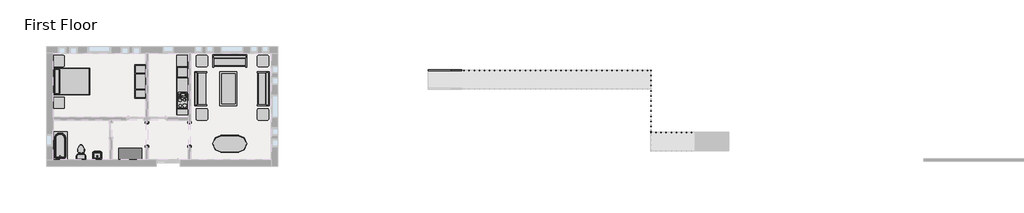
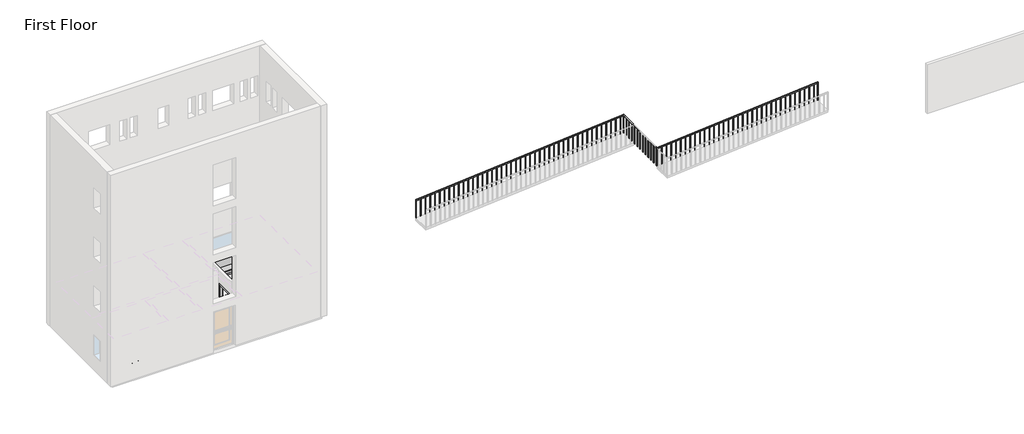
# One storey, part 3 of 3: 15 furniture elements, 6 proxies, 4 flow terminals, 1 railing.
"""IFC4 building model written with IfcOpenShell, lengths in millimetres."""

from ifc_helpers import new_model, si_unit, frame, origin, place, context, project, spatial, polyline, outline, extrude, faceted_brep, transform, mapped, element, save
from components import m_cook_top_4_unit2_0615_x_500mm_249f3515, m_dishwasher_610_x_610_x_875mm_54ecfc4c, m_kitchenette_medium_m_kitchenette_medium_3ff942c7, m_passage_opening_cased_1220_x_2134_mm_87a8d9c2, m_refrigerator_600_x_660mm_a466bf94, m_sink_kitchen_island_450_x_450mm_f969cf2d, m_sink_vanity_square_500_x_440mm_1e229b74, m_toilet_domestic_3d_m_toilet_domestic_3d_5cb52bd4, m_toilet_domestic_3d_m_toilet_domestic_3d_183bbd19, m_tub_rectangular_3d_m_tub_rectangular_3d_3a981ad5, m_bed_shaker_1422_x_1981mm_double_096e7f55, m_counter_top_w_sink_hole_600mm_depth_8ccae52a, m_dresser_1220_x_1525_x_0610mm_18e1f140, m_entertainment_center_1830_x_1830_x_0610mm_f77a9b93, m_sofa_1830mm_f9e8a66b, m_table_coffee_0915_x_1830_x_0457mm_134cd960, m_table_dining_oval_0915_x_1830mm_a7cfbe21, m_table_end_0610_x_0160mm_cb6ea12e

model = new_model("IFC4")

# Units and contexts
model_context = context("Model", 3, world=origin())
ifc_project = project(units=[si_unit("LENGTHUNIT", "METRE", prefix="MILLI")], contexts=[model_context])

# Site, building, storey
site = spatial("IfcSite", under=ifc_project)
building = spatial("IfcBuilding", under=site)
storey = spatial("IfcBuildingStorey", under=building, Name="First Floor", Elevation=0.0)

# Proxies
placement = place(None, origin())
m_cook_top_4_unit2_0615_x_500mm_shape = m_cook_top_4_unit2_0615_x_500mm_249f3515(model_context)
element("IfcBuildingElementProxy", 1, Name="M_Cook Top-4 Unit2 : 0615 x 500mm", ObjectType="M_Cook Top-4 Unit2 : 0615 x 500mm", at=placement, inside=storey, context=model_context, shape_type="MappedRepresentation", body=[
    mapped(m_cook_top_4_unit2_0615_x_500mm_shape, transform((-11224.1822145, 11168.140104, 31.0), x_axis=(0.0, 1.0, 0.0), y_axis=(-1.0, 0.0, 0.0), z_axis=(0.0, 0.0, 1.0))),
])
m_dishwasher_610_x_610_x_875mm_shape = m_dishwasher_610_x_610_x_875mm_54ecfc4c(model_context)
element("IfcBuildingElementProxy", 2, Name="M_Dishwasher : 610 x 610 x 875mm", ObjectType="M_Dishwasher : 610 x 610 x 875mm", at=placement, inside=storey, context=model_context, shape_type="MappedRepresentation", body=[
    mapped(m_dishwasher_610_x_610_x_875mm_shape, transform((-10967.5326497, 13033.8726355, 0.0), x_axis=(0.0, 1.0, 0.0), y_axis=(-1.0, 0.0, 0.0), z_axis=(0.0, 0.0, 1.0))),
])
m_kitchenette_medium_m_kitchenette_medium_shape = m_kitchenette_medium_m_kitchenette_medium_3ff942c7(model_context)
element("IfcBuildingElementProxy", 3, Name="M_Kitchenette - Medium : M_Kitchenette - Medium", ObjectType="M_Kitchenette - Medium : M_Kitchenette - Medium", at=placement, inside=storey, context=model_context, shape_type="MappedRepresentation", body=[
    mapped(m_kitchenette_medium_m_kitchenette_medium_shape, transform((-11539.1822145, 11797.152399, 0.0), x_axis=(0.0, 1.0, 0.0), y_axis=(-1.0, 0.0, 0.0), z_axis=(0.0, 0.0, 1.0))),
])
m_passage_opening_cased_1220_x_2134_mm_shape = m_passage_opening_cased_1220_x_2134_mm_87a8d9c2(model_context)
element("IfcBuildingElementProxy", 4, Name="M_Passage Opening-Cased : 1220 x 2134 mm", ObjectType="M_Passage Opening-Cased : 1220 x 2134 mm", at=placement, inside=storey, context=model_context, shape_type="MappedRepresentation", body=[
    mapped(m_passage_opening_cased_1220_x_2134_mm_shape, transform((-10841.0930086, 9462.255705, 0.0), x_axis=(0.0, 1.0, 0.0), y_axis=(-1.0, 0.0, 0.0), z_axis=(0.0, 0.0, 1.0))),
])
element("IfcBuildingElementProxy", 5, Name="M_Passage Opening-Cased : 1220 x 2134 mm", ObjectType="M_Passage Opening-Cased : 1220 x 2134 mm", at=placement, inside=storey, context=model_context, shape_type="MappedRepresentation", body=[
    mapped(m_passage_opening_cased_1220_x_2134_mm_shape, transform((-13127.0930086, 9445.8783915, 0.0), x_axis=(0.0, -1.0, 0.0), y_axis=(1.0, 0.0, 0.0), z_axis=(0.0, 0.0, 1.0))),
])
m_refrigerator_600_x_660mm_shape = m_refrigerator_600_x_660mm_a466bf94(model_context)
element("IfcBuildingElementProxy", 6, Name="M_Refrigerator : 600 x 660mm", ObjectType="M_Refrigerator : 600 x 660mm", at=placement, inside=storey, context=model_context, shape_type="MappedRepresentation", body=[
    mapped(m_refrigerator_600_x_660mm_shape, transform((-11242.9671243, 12874.1912466, 0.0), x_axis=(0.0, 1.0, 0.0), y_axis=(-1.0, 0.0, 0.0), z_axis=(0.0, 0.0, 1.0))),
])

# Flow terminals
m_sink_kitchen_island_450_x_450mm_shape = m_sink_kitchen_island_450_x_450mm_f969cf2d(model_context)
element("IfcFlowTerminal", 7, ObjectType="M_Sink Kitchen-Island : 450 x 450mm", at=placement, inside=storey, context=model_context, shape_type="MappedRepresentation", body=[
    mapped(m_sink_kitchen_island_450_x_450mm_shape, transform((-11223.7368134, 11504.7008634, 31.0), x_axis=(0.0, 1.0, 0.0), y_axis=(-1.0, 0.0, 0.0), z_axis=(0.0, 0.0, 1.0))),
])
m_sink_vanity_square_500_x_440mm_shape = m_sink_vanity_square_500_x_440mm_1e229b74(model_context)
element("IfcFlowTerminal", 8, ObjectType="M_Sink Vanity-Square : 500 x 440mm", at=placement, inside=storey, context=model_context, shape_type="MappedRepresentation", body=[
    mapped(m_sink_vanity_square_500_x_440mm_shape, transform((-15802.3094072, 8285.2124494, 0.0), x_axis=(-1.0, 0.0, 0.0), y_axis=(0.0, -1.0, 0.0), z_axis=(0.0, 0.0, 1.0))),
])
m_toilet_domestic_3d_m_toilet_domestic_3d_shape = m_toilet_domestic_3d_m_toilet_domestic_3d_5cb52bd4(model_context)
m_toilet_domestic_3d_m_toilet_domestic_3d_2_shape = m_toilet_domestic_3d_m_toilet_domestic_3d_183bbd19(model_context)
element("IfcFlowTerminal", 9, ObjectType="M_Toilet-Domestic-3D : M_Toilet-Domestic-3D", at=placement, inside=storey, context=model_context, shape_type="MappedRepresentation", body=[
    mapped(m_toilet_domestic_3d_m_toilet_domestic_3d_shape, transform((-16689.489036, 8599.7630756, 0.0), x_axis=(-1.0, 0.0, 0.0), y_axis=(0.0, -1.0, 0.0), z_axis=(0.0, 0.0, 1.0))),
    mapped(m_toilet_domestic_3d_m_toilet_domestic_3d_2_shape, transform((-16689.489036, 8599.7630756, 0.0), x_axis=(-1.0, 0.0, 0.0), y_axis=(0.0, -1.0, 0.0), z_axis=(0.0, 0.0, 1.0))),
])
m_tub_rectangular_3d_m_tub_rectangular_3d_shape = m_tub_rectangular_3d_m_tub_rectangular_3d_3a981ad5(model_context)
element("IfcFlowTerminal", 10, ObjectType="M_Tub-Rectangular-3D : M_Tub-Rectangular-3D", at=placement, inside=storey, context=model_context, shape_type="MappedRepresentation", body=[
    mapped(m_tub_rectangular_3d_m_tub_rectangular_3d_shape, transform((-18376.8430086, 9198.170017, 0.0), x_axis=(0.0, 1.0, 0.0), y_axis=(-1.0, 0.0, 0.0), z_axis=(0.0, 0.0, 1.0))),
])

# Furniture
m_bed_shaker_1422_x_1981mm_double_shape = m_bed_shaker_1422_x_1981mm_double_096e7f55(model_context)
element("IfcFurniture", 11, ObjectType="M_Bed-Shaker : 1422 x 1981mm - Double", at=placement, inside=storey, context=model_context, shape_type="MappedRepresentation", body=[
    mapped(m_bed_shaker_1422_x_1981mm_double_shape, transform((-18201.8430086, 12334.7295483, 0.0), x_axis=(0.0, 1.0, 0.0), y_axis=(-1.0, 0.0, 0.0), z_axis=(0.0, 0.0, 1.0))),
])
m_counter_top_w_sink_hole_600mm_depth_shape = m_counter_top_w_sink_hole_600mm_depth_8ccae52a(model_context)
element("IfcFurniture", 12, ObjectType="M_Counter Top w Sink Hole : 600mm Depth", at=placement, inside=storey, context=model_context, shape_type="MappedRepresentation", body=[
    mapped(m_counter_top_w_sink_hole_600mm_depth_shape, transform((-11539.1822145, 11720.852399, 31.0), x_axis=(0.0, 1.0, 0.0), y_axis=(-1.0, 0.0, 0.0), z_axis=(0.0, 0.0, 1.0))),
])
m_dresser_1220_x_1525_x_0610mm_shape = m_dresser_1220_x_1525_x_0610mm_18e1f140(model_context)
element("IfcFurniture", 13, ObjectType="M_Dresser : 1220 x 1525 x 0610mm", at=placement, inside=storey, context=model_context, shape_type="MappedRepresentation", body=[
    mapped(m_dresser_1220_x_1525_x_0610mm_shape, transform((-13767.8997488, 8773.2300024, 0.0), x_axis=(1.0, 0.0, 0.0), y_axis=(0.0, 1.0, 0.0), z_axis=(0.0, 0.0, 1.0))),
])
m_entertainment_center_1830_x_1830_x_0610mm_shape = m_entertainment_center_1830_x_1830_x_0610mm_f77a9b93(model_context)
element("IfcFurniture", 14, ObjectType="M_Entertainment center : 1830 x 1830 x 0610mm", at=placement, inside=storey, context=model_context, shape_type="MappedRepresentation", body=[
    mapped(m_entertainment_center_1830_x_1830_x_0610mm_shape, transform((-13906.2430086, 12315.6795483, 0.0), x_axis=(0.0, 1.0, 0.0), y_axis=(-1.0, 0.0, 0.0), z_axis=(0.0, 0.0, 1.0))),
])
m_sofa_1830mm_shape = m_sofa_1830mm_f9e8a66b(model_context)
element("IfcFurniture", 15, ObjectType="M_Sofa : 1830mm", at=placement, inside=storey, context=model_context, shape_type="MappedRepresentation", body=[
    mapped(m_sofa_1830mm_shape, transform((-8739.4635004, 13279.9129499, 0.0), x_axis=(1.0, 0.0, 0.0), y_axis=(0.0, 1.0, 0.0), z_axis=(0.0, 0.0, 1.0))),
])
element("IfcFurniture", 16, ObjectType="M_Sofa : 1830mm", at=placement, inside=storey, context=model_context, shape_type="MappedRepresentation", body=[
    mapped(m_sofa_1830mm_shape, transform((-7015.247107, 11996.4375401, 0.0), x_axis=(0.0, -1.0, 0.0), y_axis=(1.0, 0.0, 0.0), z_axis=(0.0, 0.0, 1.0))),
])
element("IfcFurniture", 17, ObjectType="M_Sofa : 1830mm", at=placement, inside=storey, context=model_context, shape_type="MappedRepresentation", body=[
    mapped(m_sofa_1830mm_shape, transform((-10094.9389103, 11855.6965565, 0.0), x_axis=(0.0, 1.0, 0.0), y_axis=(-1.0, 0.0, 0.0), z_axis=(0.0, 0.0, 1.0))),
])
m_table_coffee_0915_x_1830_x_0457mm_shape = m_table_coffee_0915_x_1830_x_0457mm_134cd960(model_context)
element("IfcFurniture", 18, ObjectType="M_Table-Coffee : 0915 x 1830 x 0457mm", at=placement, inside=storey, context=model_context, shape_type="MappedRepresentation", body=[
    mapped(m_table_coffee_0915_x_1830_x_0457mm_shape, transform((-8645.8819308, 11907.8012816, 0.0), x_axis=(0.0, 1.0, 0.0), y_axis=(-1.0, 0.0, 0.0), z_axis=(0.0, 0.0, 1.0))),
])
m_table_dining_oval_0915_x_1830mm_shape = m_table_dining_oval_0915_x_1830mm_a7cfbe21(model_context)
element("IfcFurniture", 19, ObjectType="M_Table-Dining Oval : 0915 x 1830mm", at=placement, inside=storey, context=model_context, shape_type="MappedRepresentation", body=[
    mapped(m_table_dining_oval_0915_x_1830mm_shape, transform((-8267.2733365, 9307.4154089, 0.0), x_axis=(1.0, 0.0, 0.0), y_axis=(0.0, 1.0, 0.0), z_axis=(0.0, 0.0, 1.0))),
])
m_table_end_0610_x_0160mm_shape = m_table_end_0610_x_0160mm_cb6ea12e(model_context)
element("IfcFurniture", 20, ObjectType="M_Table-End : 0610 x 0160mm", at=placement, inside=storey, context=model_context, shape_type="MappedRepresentation", body=[
    mapped(m_table_end_0610_x_0160mm_shape, transform((-10482.8266389, 13273.6670483, 0.0), x_axis=(1.0, 0.0, 0.0), y_axis=(0.0, 1.0, 0.0), z_axis=(0.0, 0.0, 1.0))),
])
element("IfcFurniture", 21, ObjectType="M_Table-End : 0610 x 0160mm", at=placement, inside=storey, context=model_context, shape_type="MappedRepresentation", body=[
    mapped(m_table_end_0610_x_0160mm_shape, transform((-7182.8266389, 13273.6670483, 0.0), x_axis=(1.0, 0.0, 0.0), y_axis=(0.0, 1.0, 0.0), z_axis=(0.0, 0.0, 1.0))),
])
element("IfcFurniture", 22, ObjectType="M_Table-End : 0610 x 0160mm", at=placement, inside=storey, context=model_context, shape_type="MappedRepresentation", body=[
    mapped(m_table_end_0610_x_0160mm_shape, transform((-7182.8266389, 10391.6670483, 0.0), x_axis=(1.0, 0.0, 0.0), y_axis=(0.0, 1.0, 0.0), z_axis=(0.0, 0.0, 1.0))),
])
element("IfcFurniture", 23, ObjectType="M_Table-End : 0610 x 0160mm", at=placement, inside=storey, context=model_context, shape_type="MappedRepresentation", body=[
    mapped(m_table_end_0610_x_0160mm_shape, transform((-10482.8266389, 10391.6670483, 0.0), x_axis=(1.0, 0.0, 0.0), y_axis=(0.0, 1.0, 0.0), z_axis=(0.0, 0.0, 1.0))),
])
element("IfcFurniture", 24, ObjectType="M_Table-End : 0610 x 0160mm", at=placement, inside=storey, context=model_context, shape_type="MappedRepresentation", body=[
    mapped(m_table_end_0610_x_0160mm_shape, transform((-18205.5766389, 13273.6670483, 0.0), x_axis=(1.0, 0.0, 0.0), y_axis=(0.0, 1.0, 0.0), z_axis=(0.0, 0.0, 1.0))),
])
element("IfcFurniture", 25, ObjectType="M_Table-End : 0610 x 0160mm", at=placement, inside=storey, context=model_context, shape_type="MappedRepresentation", body=[
    mapped(m_table_end_0610_x_0160mm_shape, transform((-18205.5766389, 11018.6670483, 0.0), x_axis=(1.0, 0.0, 0.0), y_axis=(0.0, 1.0, 0.0), z_axis=(0.0, 0.0, 1.0))),
])

# Railing
element("IfcRailing", 26, ObjectType="1100mm", at=placement, inside=storey, context=model_context, shape_type="SolidModel", body=[
    faceted_brep([(2045.9938283, 12939.6420399, 1100.0), (2045.9938283, 12939.6420399, 1049.8266893), (2045.9938283, 12889.6420399, 1049.8266893), (2045.9938283, 12889.6420399, 1100.0), (13945.9938283, 12939.6420399, 2091.6666667), (13995.9938283, 12939.6420399, 2045.6600226), (13995.9938283, 12889.6420399, 2045.6600226), (13945.9938283, 12889.6420399, 2091.6666667), (13945.9938283, 12939.6420399, 2100.0), (13995.9938283, 12939.6420399, 2050.0), (13995.9938283, 12889.6420399, 2050.0), (13945.9938283, 12889.6420399, 2100.0), (14070.9938283, 12939.6420399, 2100.0), (14070.9938283, 12939.6420399, 2050.0), (14020.9938283, 12889.6420399, 2050.0), (14020.9938283, 12889.6420399, 2100.0), (14070.9938283, 12814.6420399, 2100.0), (14070.9938283, 12814.6420399, 2050.0), (14020.9938283, 12814.6420399, 2050.0), (14020.9938283, 12814.6420399, 2100.0), (14070.9938283, 9671.2961921, 2100.0), (14070.9938283, 9621.2961921, 2050.0), (14020.9938283, 9621.2961921, 2050.0), (14020.9938283, 9671.2961921, 2100.0), (14070.9938283, 9671.2961921, 2108.3333333), (14070.9938283, 9621.2961921, 2058.3333333), (14020.9938283, 9621.2961921, 2058.3333333), (14020.9938283, 9671.2961921, 2108.3333333), (14070.9938283, 9596.2961921, 2108.3333333), (14070.9938283, 9596.2961921, 2058.3333333), (14020.9938283, 9546.2961921, 2058.3333333), (14020.9938283, 9546.2961921, 2108.3333333), (14145.9938283, 9596.2961921, 2108.3333333), (14148.0735572, 9596.2961921, 2058.3333333), (14148.0735572, 9546.2961921, 2058.3333333), (14145.9938283, 9546.2961921, 2108.3333333), (23345.9938283, 9596.2961921, 2875.0), (23345.9938283, 9546.2961921, 2875.0), (23345.9938283, 9546.2961921, 2824.8266893), (23345.9938283, 9596.2961921, 2824.8266893)], [[[0, 1, 2, 3]], [[1, 0, 4, 5]], [[2, 1, 5, 6]], [[3, 2, 6, 7]], [[0, 3, 7, 4]], [[5, 4, 8, 9]], [[6, 5, 9, 10]], [[7, 6, 10, 11]], [[4, 7, 11, 8]], [[9, 8, 12, 13]], [[10, 9, 13, 14]], [[11, 10, 14, 15]], [[8, 11, 15, 12]], [[13, 12, 16, 17]], [[14, 13, 17, 18]], [[15, 14, 18, 19]], [[12, 15, 19, 16]], [[17, 16, 20, 21]], [[18, 17, 21, 22]], [[19, 18, 22, 23]], [[16, 19, 23, 20]], [[21, 20, 24, 25]], [[22, 21, 25, 26]], [[23, 22, 26, 27]], [[20, 23, 27, 24]], [[25, 24, 28, 29]], [[26, 25, 29, 30]], [[27, 26, 30, 31]], [[24, 27, 31, 28]], [[29, 28, 32, 33]], [[30, 29, 33, 34]], [[31, 30, 34, 35]], [[28, 31, 35, 32]], [[36, 37, 38, 39]], [[33, 32, 36, 39]], [[34, 33, 39, 38]], [[35, 34, 38, 37]], [[32, 35, 37, 36]]]),
    extrude(outline(polyline([(2805.0350226, 23108.4938283), (1755.2083333, 23108.4938283), (1757.2916667, 23133.4938283), (2807.1183559, 23133.4938283), (2805.0350226, 23108.4938283)])), frame((0.0, 9558.7961921, 0.0), z_axis=(0.0, 1.0, 0.0), x_axis=(0.0, 0.0, 1.0)), (0.0, 0.0, 1.0), 25.0),
    extrude(outline(polyline([(2782.1183559, 22833.4938283), (1732.2916667, 22833.4938283), (1734.375, 22858.4938283), (2784.2016893, 22858.4938283), (2782.1183559, 22833.4938283)])), frame((0.0, 9558.7961921, 0.0), z_axis=(0.0, 1.0, 0.0), x_axis=(0.0, 0.0, 1.0)), (0.0, 0.0, 1.0), 25.0),
    extrude(outline(polyline([(2759.2016893, 22558.4938283), (1709.375, 22558.4938283), (1711.4583333, 22583.4938283), (2761.2850226, 22583.4938283), (2759.2016893, 22558.4938283)])), frame((0.0, 9558.7961921, 0.0), z_axis=(0.0, 1.0, 0.0), x_axis=(0.0, 0.0, 1.0)), (0.0, 0.0, 1.0), 25.0),
    extrude(outline(polyline([(2736.2850226, 22283.4938283), (1686.4583333, 22283.4938283), (1688.5416667, 22308.4938283), (2738.3683559, 22308.4938283), (2736.2850226, 22283.4938283)])), frame((0.0, 9558.7961921, 0.0), z_axis=(0.0, 1.0, 0.0), x_axis=(0.0, 0.0, 1.0)), (0.0, 0.0, 1.0), 25.0),
    extrude(outline(polyline([(2713.3683559, 22008.4938283), (1663.5416667, 22008.4938283), (1665.625, 22033.4938283), (2715.4516893, 22033.4938283), (2713.3683559, 22008.4938283)])), frame((0.0, 9558.7961921, 0.0), z_axis=(0.0, 1.0, 0.0), x_axis=(0.0, 0.0, 1.0)), (0.0, 0.0, 1.0), 25.0),
    extrude(outline(polyline([(2690.4516893, 21733.4938283), (1640.625, 21733.4938283), (1642.7083333, 21758.4938283), (2692.5350226, 21758.4938283), (2690.4516893, 21733.4938283)])), frame((0.0, 9558.7961921, 0.0), z_axis=(0.0, 1.0, 0.0), x_axis=(0.0, 0.0, 1.0)), (0.0, 0.0, 1.0), 25.0),
    extrude(outline(polyline([(2667.5350226, 21458.4938283), (1617.7083333, 21458.4938283), (1619.7916667, 21483.4938283), (2669.6183559, 21483.4938283), (2667.5350226, 21458.4938283)])), frame((0.0, 9558.7961921, 0.0), z_axis=(0.0, 1.0, 0.0), x_axis=(0.0, 0.0, 1.0)), (0.0, 0.0, 1.0), 25.0),
    extrude(outline(polyline([(2644.6183559, 21183.4938283), (1594.7916667, 21183.4938283), (1596.875, 21208.4938283), (2646.7016893, 21208.4938283), (2644.6183559, 21183.4938283)])), frame((0.0, 9558.7961921, 0.0), z_axis=(0.0, 1.0, 0.0), x_axis=(0.0, 0.0, 1.0)), (0.0, 0.0, 1.0), 25.0),
    extrude(outline(polyline([(2621.7016893, 20908.4938283), (1571.875, 20908.4938283), (1573.9583333, 20933.4938283), (2623.7850226, 20933.4938283), (2621.7016893, 20908.4938283)])), frame((0.0, 9558.7961921, 0.0), z_axis=(0.0, 1.0, 0.0), x_axis=(0.0, 0.0, 1.0)), (0.0, 0.0, 1.0), 25.0),
    extrude(outline(polyline([(2598.7850226, 20633.4938283), (1548.9583333, 20633.4938283), (1551.0416667, 20658.4938283), (2600.8683559, 20658.4938283), (2598.7850226, 20633.4938283)])), frame((0.0, 9558.7961921, 0.0), z_axis=(0.0, 1.0, 0.0), x_axis=(0.0, 0.0, 1.0)), (0.0, 0.0, 1.0), 25.0),
    extrude(outline(polyline([(2575.8683559, 20358.4938283), (1526.0416667, 20358.4938283), (1528.125, 20383.4938283), (2577.9516893, 20383.4938283), (2575.8683559, 20358.4938283)])), frame((0.0, 9558.7961921, 0.0), z_axis=(0.0, 1.0, 0.0), x_axis=(0.0, 0.0, 1.0)), (0.0, 0.0, 1.0), 25.0),
    extrude(outline(polyline([(2552.9516893, 20083.4938283), (1503.125, 20083.4938283), (1505.2083333, 20108.4938283), (2555.0350226, 20108.4938283), (2552.9516893, 20083.4938283)])), frame((0.0, 9558.7961921, 0.0), z_axis=(0.0, 1.0, 0.0), x_axis=(0.0, 0.0, 1.0)), (0.0, 0.0, 1.0), 25.0),
    extrude(outline(polyline([(2530.0350226, 19808.4938283), (1480.2083333, 19808.4938283), (1482.2916667, 19833.4938283), (2532.1183559, 19833.4938283), (2530.0350226, 19808.4938283)])), frame((0.0, 9558.7961921, 0.0), z_axis=(0.0, 1.0, 0.0), x_axis=(0.0, 0.0, 1.0)), (0.0, 0.0, 1.0), 25.0),
    extrude(outline(polyline([(2507.1183559, 19533.4938283), (1457.2916667, 19533.4938283), (1459.375, 19558.4938283), (2509.2016893, 19558.4938283), (2507.1183559, 19533.4938283)])), frame((0.0, 9558.7961921, 0.0), z_axis=(0.0, 1.0, 0.0), x_axis=(0.0, 0.0, 1.0)), (0.0, 0.0, 1.0), 25.0),
    extrude(outline(polyline([(2484.2016893, 19258.4938283), (1434.375, 19258.4938283), (1436.4583333, 19283.4938283), (2486.2850226, 19283.4938283), (2484.2016893, 19258.4938283)])), frame((0.0, 9558.7961921, 0.0), z_axis=(0.0, 1.0, 0.0), x_axis=(0.0, 0.0, 1.0)), (0.0, 0.0, 1.0), 25.0),
    extrude(outline(polyline([(2461.2850226, 18983.4938283), (1411.4583333, 18983.4938283), (1413.5416667, 19008.4938283), (2463.3683559, 19008.4938283), (2461.2850226, 18983.4938283)])), frame((0.0, 9558.7961921, 0.0), z_axis=(0.0, 1.0, 0.0), x_axis=(0.0, 0.0, 1.0)), (0.0, 0.0, 1.0), 25.0),
    extrude(outline(polyline([(2438.3683559, 18708.4938283), (1388.5416667, 18708.4938283), (1390.625, 18733.4938283), (2440.4516893, 18733.4938283), (2438.3683559, 18708.4938283)])), frame((0.0, 9558.7961921, 0.0), z_axis=(0.0, 1.0, 0.0), x_axis=(0.0, 0.0, 1.0)), (0.0, 0.0, 1.0), 25.0),
    extrude(outline(polyline([(2415.4516893, 18433.4938283), (1365.625, 18433.4938283), (1367.7083333, 18458.4938283), (2417.5350226, 18458.4938283), (2415.4516893, 18433.4938283)])), frame((0.0, 9558.7961921, 0.0), z_axis=(0.0, 1.0, 0.0), x_axis=(0.0, 0.0, 1.0)), (0.0, 0.0, 1.0), 25.0),
    extrude(outline(polyline([(2392.5350226, 18158.4938283), (1342.7083333, 18158.4938283), (1344.7916667, 18183.4938283), (2394.6183559, 18183.4938283), (2392.5350226, 18158.4938283)])), frame((0.0, 9558.7961921, 0.0), z_axis=(0.0, 1.0, 0.0), x_axis=(0.0, 0.0, 1.0)), (0.0, 0.0, 1.0), 25.0),
    extrude(outline(polyline([(2369.6183559, 17883.4938283), (1319.7916667, 17883.4938283), (1321.875, 17908.4938283), (2371.7016893, 17908.4938283), (2369.6183559, 17883.4938283)])), frame((0.0, 9558.7961921, 0.0), z_axis=(0.0, 1.0, 0.0), x_axis=(0.0, 0.0, 1.0)), (0.0, 0.0, 1.0), 25.0),
    extrude(outline(polyline([(2346.7016893, 17608.4938283), (1296.875, 17608.4938283), (1298.9583333, 17633.4938283), (2348.7850226, 17633.4938283), (2346.7016893, 17608.4938283)])), frame((0.0, 9558.7961921, 0.0), z_axis=(0.0, 1.0, 0.0), x_axis=(0.0, 0.0, 1.0)), (0.0, 0.0, 1.0), 25.0),
    extrude(outline(polyline([(2323.7850226, 17333.4938283), (1273.9583333, 17333.4938283), (1276.0416667, 17358.4938283), (2325.8683559, 17358.4938283), (2323.7850226, 17333.4938283)])), frame((0.0, 9558.7961921, 0.0), z_axis=(0.0, 1.0, 0.0), x_axis=(0.0, 0.0, 1.0)), (0.0, 0.0, 1.0), 25.0),
    extrude(outline(polyline([(2300.8683559, 17058.4938283), (1251.0416667, 17058.4938283), (1253.125, 17083.4938283), (2302.9516893, 17083.4938283), (2300.8683559, 17058.4938283)])), frame((0.0, 9558.7961921, 0.0), z_axis=(0.0, 1.0, 0.0), x_axis=(0.0, 0.0, 1.0)), (0.0, 0.0, 1.0), 25.0),
    extrude(outline(polyline([(2277.9516893, 16783.4938283), (1228.125, 16783.4938283), (1230.2083333, 16808.4938283), (2280.0350226, 16808.4938283), (2277.9516893, 16783.4938283)])), frame((0.0, 9558.7961921, 0.0), z_axis=(0.0, 1.0, 0.0), x_axis=(0.0, 0.0, 1.0)), (0.0, 0.0, 1.0), 25.0),
    extrude(outline(polyline([(2255.0350226, 16508.4938283), (1205.2083333, 16508.4938283), (1207.2916667, 16533.4938283), (2257.1183559, 16533.4938283), (2255.0350226, 16508.4938283)])), frame((0.0, 9558.7961921, 0.0), z_axis=(0.0, 1.0, 0.0), x_axis=(0.0, 0.0, 1.0)), (0.0, 0.0, 1.0), 25.0),
    extrude(outline(polyline([(2232.1183559, 16233.4938283), (1182.2916667, 16233.4938283), (1184.375, 16258.4938283), (2234.2016893, 16258.4938283), (2232.1183559, 16233.4938283)])), frame((0.0, 9558.7961921, 0.0), z_axis=(0.0, 1.0, 0.0), x_axis=(0.0, 0.0, 1.0)), (0.0, 0.0, 1.0), 25.0),
    extrude(outline(polyline([(2209.2016893, 15958.4938283), (1159.375, 15958.4938283), (1161.4583333, 15983.4938283), (2211.2850226, 15983.4938283), (2209.2016893, 15958.4938283)])), frame((0.0, 9558.7961921, 0.0), z_axis=(0.0, 1.0, 0.0), x_axis=(0.0, 0.0, 1.0)), (0.0, 0.0, 1.0), 25.0),
    extrude(outline(polyline([(2186.2850226, 15683.4938283), (1136.4583333, 15683.4938283), (1138.5416667, 15708.4938283), (2188.3683559, 15708.4938283), (2186.2850226, 15683.4938283)])), frame((0.0, 9558.7961921, 0.0), z_axis=(0.0, 1.0, 0.0), x_axis=(0.0, 0.0, 1.0)), (0.0, 0.0, 1.0), 25.0),
    extrude(outline(polyline([(2163.3683559, 15408.4938283), (1113.5416667, 15408.4938283), (1115.625, 15433.4938283), (2165.4516893, 15433.4938283), (2163.3683559, 15408.4938283)])), frame((0.0, 9558.7961921, 0.0), z_axis=(0.0, 1.0, 0.0), x_axis=(0.0, 0.0, 1.0)), (0.0, 0.0, 1.0), 25.0),
    extrude(outline(polyline([(2140.4516893, 15133.4938283), (1090.625, 15133.4938283), (1092.7083333, 15158.4938283), (2142.5350226, 15158.4938283), (2140.4516893, 15133.4938283)])), frame((0.0, 9558.7961921, 0.0), z_axis=(0.0, 1.0, 0.0), x_axis=(0.0, 0.0, 1.0)), (0.0, 0.0, 1.0), 25.0),
    extrude(outline(polyline([(2117.5350226, 14858.4938283), (1067.7083333, 14858.4938283), (1069.7916667, 14883.4938283), (2119.6183559, 14883.4938283), (2117.5350226, 14858.4938283)])), frame((0.0, 9558.7961921, 0.0), z_axis=(0.0, 1.0, 0.0), x_axis=(0.0, 0.0, 1.0)), (0.0, 0.0, 1.0), 25.0),
    extrude(outline(polyline([(2094.6183559, 14583.4938283), (1044.7916667, 14583.4938283), (1046.875, 14608.4938283), (2096.7016893, 14608.4938283), (2094.6183559, 14583.4938283)])), frame((0.0, 9558.7961921, 0.0), z_axis=(0.0, 1.0, 0.0), x_axis=(0.0, 0.0, 1.0)), (0.0, 0.0, 1.0), 25.0),
    extrude(outline(polyline([(2071.7016893, 14308.4938283), (1021.875, 14308.4938283), (1023.9583333, 14333.4938283), (2073.7850226, 14333.4938283), (2071.7016893, 14308.4938283)])), frame((0.0, 9558.7961921, 0.0), z_axis=(0.0, 1.0, 0.0), x_axis=(0.0, 0.0, 1.0)), (0.0, 0.0, 1.0), 25.0),
    extrude(outline(polyline([(14033.4938283, 9627.1420399), (14058.4938283, 9627.1420399), (14058.4938283, 9602.1420399), (14033.4938283, 9602.1420399), (14033.4938283, 9627.1420399)])), frame((0.0, 0.0, 1000.0), z_axis=(0.0, 0.0, 1.0), x_axis=(1.0, 0.0, 0.0)), (0.0, 0.0, 1.0), 1050.0),
    extrude(outline(polyline([(14033.4938283, 9902.1420399), (14058.4938283, 9902.1420399), (14058.4938283, 9877.1420399), (14033.4938283, 9877.1420399), (14033.4938283, 9902.1420399)])), frame((0.0, 0.0, 1000.0), z_axis=(0.0, 0.0, 1.0), x_axis=(1.0, 0.0, 0.0)), (0.0, 0.0, 1.0), 1050.0),
    extrude(outline(polyline([(14033.4938283, 10177.1420399), (14058.4938283, 10177.1420399), (14058.4938283, 10152.1420399), (14033.4938283, 10152.1420399), (14033.4938283, 10177.1420399)])), frame((0.0, 0.0, 1000.0), z_axis=(0.0, 0.0, 1.0), x_axis=(1.0, 0.0, 0.0)), (0.0, 0.0, 1.0), 1050.0),
    extrude(outline(polyline([(14033.4938283, 10452.1420399), (14058.4938283, 10452.1420399), (14058.4938283, 10427.1420399), (14033.4938283, 10427.1420399), (14033.4938283, 10452.1420399)])), frame((0.0, 0.0, 1000.0), z_axis=(0.0, 0.0, 1.0), x_axis=(1.0, 0.0, 0.0)), (0.0, 0.0, 1.0), 1050.0),
    extrude(outline(polyline([(14033.4938283, 10727.1420399), (14058.4938283, 10727.1420399), (14058.4938283, 10702.1420399), (14033.4938283, 10702.1420399), (14033.4938283, 10727.1420399)])), frame((0.0, 0.0, 1000.0), z_axis=(0.0, 0.0, 1.0), x_axis=(1.0, 0.0, 0.0)), (0.0, 0.0, 1.0), 1050.0),
    extrude(outline(polyline([(14033.4938283, 11002.1420399), (14058.4938283, 11002.1420399), (14058.4938283, 10977.1420399), (14033.4938283, 10977.1420399), (14033.4938283, 11002.1420399)])), frame((0.0, 0.0, 1000.0), z_axis=(0.0, 0.0, 1.0), x_axis=(1.0, 0.0, 0.0)), (0.0, 0.0, 1.0), 1050.0),
    extrude(outline(polyline([(14033.4938283, 11277.1420399), (14058.4938283, 11277.1420399), (14058.4938283, 11252.1420399), (14033.4938283, 11252.1420399), (14033.4938283, 11277.1420399)])), frame((0.0, 0.0, 1000.0), z_axis=(0.0, 0.0, 1.0), x_axis=(1.0, 0.0, 0.0)), (0.0, 0.0, 1.0), 1050.0),
    extrude(outline(polyline([(14033.4938283, 11552.1420399), (14058.4938283, 11552.1420399), (14058.4938283, 11527.1420399), (14033.4938283, 11527.1420399), (14033.4938283, 11552.1420399)])), frame((0.0, 0.0, 1000.0), z_axis=(0.0, 0.0, 1.0), x_axis=(1.0, 0.0, 0.0)), (0.0, 0.0, 1.0), 1050.0),
    extrude(outline(polyline([(14033.4938283, 11827.1420399), (14058.4938283, 11827.1420399), (14058.4938283, 11802.1420399), (14033.4938283, 11802.1420399), (14033.4938283, 11827.1420399)])), frame((0.0, 0.0, 1000.0), z_axis=(0.0, 0.0, 1.0), x_axis=(1.0, 0.0, 0.0)), (0.0, 0.0, 1.0), 1050.0),
    extrude(outline(polyline([(12102.1420399, 2050.0), (12102.1420399, 998.9583333), (12077.1420399, 1001.0416667), (12077.1420399, 2050.0), (12102.1420399, 2050.0)])), frame((14033.4938283, 0.0, 0.0), z_axis=(1.0, 0.0, 0.0), x_axis=(0.0, 1.0, 0.0)), (0.0, 0.0, 1.0), 25.0),
    extrude(outline(polyline([(12377.1420399, 2050.0), (12377.1420399, 998.9583333), (12352.1420399, 1001.0416667), (12352.1420399, 2050.0), (12377.1420399, 2050.0)])), frame((14033.4938283, 0.0, 0.0), z_axis=(1.0, 0.0, 0.0), x_axis=(0.0, 1.0, 0.0)), (0.0, 0.0, 1.0), 25.0),
    extrude(outline(polyline([(12652.1420399, 2050.0), (12652.1420399, 998.9583333), (12627.1420399, 1001.0416667), (12627.1420399, 2050.0), (12652.1420399, 2050.0)])), frame((14033.4938283, 0.0, 0.0), z_axis=(1.0, 0.0, 0.0), x_axis=(0.0, 1.0, 0.0)), (0.0, 0.0, 1.0), 25.0),
    extrude(outline(polyline([(2034.2016893, 13858.4938283), (984.375, 13858.4938283), (986.4583333, 13883.4938283), (2036.2850226, 13883.4938283), (2034.2016893, 13858.4938283)])), frame((0.0, 12902.1420399, 0.0), z_axis=(0.0, 1.0, 0.0), x_axis=(0.0, 0.0, 1.0)), (0.0, 0.0, 1.0), 25.0),
    extrude(outline(polyline([(2011.2850226, 13583.4938283), (961.4583333, 13583.4938283), (963.5416667, 13608.4938283), (2013.3683559, 13608.4938283), (2011.2850226, 13583.4938283)])), frame((0.0, 12902.1420399, 0.0), z_axis=(0.0, 1.0, 0.0), x_axis=(0.0, 0.0, 1.0)), (0.0, 0.0, 1.0), 25.0),
    extrude(outline(polyline([(1988.3683559, 13308.4938283), (938.5416667, 13308.4938283), (940.625, 13333.4938283), (1990.4516893, 13333.4938283), (1988.3683559, 13308.4938283)])), frame((0.0, 12902.1420399, 0.0), z_axis=(0.0, 1.0, 0.0), x_axis=(0.0, 0.0, 1.0)), (0.0, 0.0, 1.0), 25.0),
    extrude(outline(polyline([(1965.4516893, 13033.4938283), (915.625, 13033.4938283), (917.7083333, 13058.4938283), (1967.5350226, 13058.4938283), (1965.4516893, 13033.4938283)])), frame((0.0, 12902.1420399, 0.0), z_axis=(0.0, 1.0, 0.0), x_axis=(0.0, 0.0, 1.0)), (0.0, 0.0, 1.0), 25.0),
    extrude(outline(polyline([(1942.5350226, 12758.4938283), (892.7083333, 12758.4938283), (894.7916667, 12783.4938283), (1944.6183559, 12783.4938283), (1942.5350226, 12758.4938283)])), frame((0.0, 12902.1420399, 0.0), z_axis=(0.0, 1.0, 0.0), x_axis=(0.0, 0.0, 1.0)), (0.0, 0.0, 1.0), 25.0),
    extrude(outline(polyline([(1919.6183559, 12483.4938283), (869.7916667, 12483.4938283), (871.875, 12508.4938283), (1921.7016893, 12508.4938283), (1919.6183559, 12483.4938283)])), frame((0.0, 12902.1420399, 0.0), z_axis=(0.0, 1.0, 0.0), x_axis=(0.0, 0.0, 1.0)), (0.0, 0.0, 1.0), 25.0),
    extrude(outline(polyline([(1896.7016893, 12208.4938283), (846.875, 12208.4938283), (848.9583333, 12233.4938283), (1898.7850226, 12233.4938283), (1896.7016893, 12208.4938283)])), frame((0.0, 12902.1420399, 0.0), z_axis=(0.0, 1.0, 0.0), x_axis=(0.0, 0.0, 1.0)), (0.0, 0.0, 1.0), 25.0),
    extrude(outline(polyline([(1873.7850226, 11933.4938283), (823.9583333, 11933.4938283), (826.0416667, 11958.4938283), (1875.8683559, 11958.4938283), (1873.7850226, 11933.4938283)])), frame((0.0, 12902.1420399, 0.0), z_axis=(0.0, 1.0, 0.0), x_axis=(0.0, 0.0, 1.0)), (0.0, 0.0, 1.0), 25.0),
    extrude(outline(polyline([(1850.8683559, 11658.4938283), (801.0416667, 11658.4938283), (803.125, 11683.4938283), (1852.9516893, 11683.4938283), (1850.8683559, 11658.4938283)])), frame((0.0, 12902.1420399, 0.0), z_axis=(0.0, 1.0, 0.0), x_axis=(0.0, 0.0, 1.0)), (0.0, 0.0, 1.0), 25.0),
    extrude(outline(polyline([(1827.9516893, 11383.4938283), (778.125, 11383.4938283), (780.2083333, 11408.4938283), (1830.0350226, 11408.4938283), (1827.9516893, 11383.4938283)])), frame((0.0, 12902.1420399, 0.0), z_axis=(0.0, 1.0, 0.0), x_axis=(0.0, 0.0, 1.0)), (0.0, 0.0, 1.0), 25.0),
    extrude(outline(polyline([(1805.0350226, 11108.4938283), (755.2083333, 11108.4938283), (757.2916667, 11133.4938283), (1807.1183559, 11133.4938283), (1805.0350226, 11108.4938283)])), frame((0.0, 12902.1420399, 0.0), z_axis=(0.0, 1.0, 0.0), x_axis=(0.0, 0.0, 1.0)), (0.0, 0.0, 1.0), 25.0),
    extrude(outline(polyline([(1782.1183559, 10833.4938283), (732.2916667, 10833.4938283), (734.375, 10858.4938283), (1784.2016893, 10858.4938283), (1782.1183559, 10833.4938283)])), frame((0.0, 12902.1420399, 0.0), z_axis=(0.0, 1.0, 0.0), x_axis=(0.0, 0.0, 1.0)), (0.0, 0.0, 1.0), 25.0),
    extrude(outline(polyline([(1759.2016893, 10558.4938283), (709.375, 10558.4938283), (711.4583333, 10583.4938283), (1761.2850226, 10583.4938283), (1759.2016893, 10558.4938283)])), frame((0.0, 12902.1420399, 0.0), z_axis=(0.0, 1.0, 0.0), x_axis=(0.0, 0.0, 1.0)), (0.0, 0.0, 1.0), 25.0),
    extrude(outline(polyline([(1736.2850226, 10283.4938283), (686.4583333, 10283.4938283), (688.5416667, 10308.4938283), (1738.3683559, 10308.4938283), (1736.2850226, 10283.4938283)])), frame((0.0, 12902.1420399, 0.0), z_axis=(0.0, 1.0, 0.0), x_axis=(0.0, 0.0, 1.0)), (0.0, 0.0, 1.0), 25.0),
    extrude(outline(polyline([(1713.3683559, 10008.4938283), (663.5416667, 10008.4938283), (665.625, 10033.4938283), (1715.4516893, 10033.4938283), (1713.3683559, 10008.4938283)])), frame((0.0, 12902.1420399, 0.0), z_axis=(0.0, 1.0, 0.0), x_axis=(0.0, 0.0, 1.0)), (0.0, 0.0, 1.0), 25.0),
    extrude(outline(polyline([(1690.4516893, 9733.4938283), (640.625, 9733.4938283), (642.7083333, 9758.4938283), (1692.5350226, 9758.4938283), (1690.4516893, 9733.4938283)])), frame((0.0, 12902.1420399, 0.0), z_axis=(0.0, 1.0, 0.0), x_axis=(0.0, 0.0, 1.0)), (0.0, 0.0, 1.0), 25.0),
    extrude(outline(polyline([(1667.5350226, 9458.4938283), (617.7083333, 9458.4938283), (619.7916667, 9483.4938283), (1669.6183559, 9483.4938283), (1667.5350226, 9458.4938283)])), frame((0.0, 12902.1420399, 0.0), z_axis=(0.0, 1.0, 0.0), x_axis=(0.0, 0.0, 1.0)), (0.0, 0.0, 1.0), 25.0),
    extrude(outline(polyline([(1644.6183559, 9183.4938283), (594.7916667, 9183.4938283), (596.875, 9208.4938283), (1646.7016893, 9208.4938283), (1644.6183559, 9183.4938283)])), frame((0.0, 12902.1420399, 0.0), z_axis=(0.0, 1.0, 0.0), x_axis=(0.0, 0.0, 1.0)), (0.0, 0.0, 1.0), 25.0),
    extrude(outline(polyline([(1621.7016893, 8908.4938283), (571.875, 8908.4938283), (573.9583333, 8933.4938283), (1623.7850226, 8933.4938283), (1621.7016893, 8908.4938283)])), frame((0.0, 12902.1420399, 0.0), z_axis=(0.0, 1.0, 0.0), x_axis=(0.0, 0.0, 1.0)), (0.0, 0.0, 1.0), 25.0),
    extrude(outline(polyline([(1598.7850226, 8633.4938283), (548.9583333, 8633.4938283), (551.0416667, 8658.4938283), (1600.8683559, 8658.4938283), (1598.7850226, 8633.4938283)])), frame((0.0, 12902.1420399, 0.0), z_axis=(0.0, 1.0, 0.0), x_axis=(0.0, 0.0, 1.0)), (0.0, 0.0, 1.0), 25.0),
    extrude(outline(polyline([(1575.8683559, 8358.4938283), (526.0416667, 8358.4938283), (528.125, 8383.4938283), (1577.9516893, 8383.4938283), (1575.8683559, 8358.4938283)])), frame((0.0, 12902.1420399, 0.0), z_axis=(0.0, 1.0, 0.0), x_axis=(0.0, 0.0, 1.0)), (0.0, 0.0, 1.0), 25.0),
    extrude(outline(polyline([(1552.9516893, 8083.4938283), (503.125, 8083.4938283), (505.2083333, 8108.4938283), (1555.0350226, 8108.4938283), (1552.9516893, 8083.4938283)])), frame((0.0, 12902.1420399, 0.0), z_axis=(0.0, 1.0, 0.0), x_axis=(0.0, 0.0, 1.0)), (0.0, 0.0, 1.0), 25.0),
    extrude(outline(polyline([(1530.0350226, 7808.4938283), (480.2083333, 7808.4938283), (482.2916667, 7833.4938283), (1532.1183559, 7833.4938283), (1530.0350226, 7808.4938283)])), frame((0.0, 12902.1420399, 0.0), z_axis=(0.0, 1.0, 0.0), x_axis=(0.0, 0.0, 1.0)), (0.0, 0.0, 1.0), 25.0),
    extrude(outline(polyline([(1507.1183559, 7533.4938283), (457.2916667, 7533.4938283), (459.375, 7558.4938283), (1509.2016893, 7558.4938283), (1507.1183559, 7533.4938283)])), frame((0.0, 12902.1420399, 0.0), z_axis=(0.0, 1.0, 0.0), x_axis=(0.0, 0.0, 1.0)), (0.0, 0.0, 1.0), 25.0),
    extrude(outline(polyline([(1484.2016893, 7258.4938283), (434.375, 7258.4938283), (436.4583333, 7283.4938283), (1486.2850226, 7283.4938283), (1484.2016893, 7258.4938283)])), frame((0.0, 12902.1420399, 0.0), z_axis=(0.0, 1.0, 0.0), x_axis=(0.0, 0.0, 1.0)), (0.0, 0.0, 1.0), 25.0),
    extrude(outline(polyline([(1461.2850226, 6983.4938283), (411.4583333, 6983.4938283), (413.5416667, 7008.4938283), (1463.3683559, 7008.4938283), (1461.2850226, 6983.4938283)])), frame((0.0, 12902.1420399, 0.0), z_axis=(0.0, 1.0, 0.0), x_axis=(0.0, 0.0, 1.0)), (0.0, 0.0, 1.0), 25.0),
    extrude(outline(polyline([(1438.3683559, 6708.4938283), (388.5416667, 6708.4938283), (390.625, 6733.4938283), (1440.4516893, 6733.4938283), (1438.3683559, 6708.4938283)])), frame((0.0, 12902.1420399, 0.0), z_axis=(0.0, 1.0, 0.0), x_axis=(0.0, 0.0, 1.0)), (0.0, 0.0, 1.0), 25.0),
    extrude(outline(polyline([(1415.4516893, 6433.4938283), (365.625, 6433.4938283), (367.7083333, 6458.4938283), (1417.5350226, 6458.4938283), (1415.4516893, 6433.4938283)])), frame((0.0, 12902.1420399, 0.0), z_axis=(0.0, 1.0, 0.0), x_axis=(0.0, 0.0, 1.0)), (0.0, 0.0, 1.0), 25.0),
    extrude(outline(polyline([(1392.5350226, 6158.4938283), (342.7083333, 6158.4938283), (344.7916667, 6183.4938283), (1394.6183559, 6183.4938283), (1392.5350226, 6158.4938283)])), frame((0.0, 12902.1420399, 0.0), z_axis=(0.0, 1.0, 0.0), x_axis=(0.0, 0.0, 1.0)), (0.0, 0.0, 1.0), 25.0),
    extrude(outline(polyline([(1369.6183559, 5883.4938283), (319.7916667, 5883.4938283), (321.875, 5908.4938283), (1371.7016893, 5908.4938283), (1369.6183559, 5883.4938283)])), frame((0.0, 12902.1420399, 0.0), z_axis=(0.0, 1.0, 0.0), x_axis=(0.0, 0.0, 1.0)), (0.0, 0.0, 1.0), 25.0),
    extrude(outline(polyline([(1346.7016893, 5608.4938283), (296.875, 5608.4938283), (298.9583333, 5633.4938283), (1348.7850226, 5633.4938283), (1346.7016893, 5608.4938283)])), frame((0.0, 12902.1420399, 0.0), z_axis=(0.0, 1.0, 0.0), x_axis=(0.0, 0.0, 1.0)), (0.0, 0.0, 1.0), 25.0),
    extrude(outline(polyline([(1323.7850226, 5333.4938283), (273.9583333, 5333.4938283), (276.0416667, 5358.4938283), (1325.8683559, 5358.4938283), (1323.7850226, 5333.4938283)])), frame((0.0, 12902.1420399, 0.0), z_axis=(0.0, 1.0, 0.0), x_axis=(0.0, 0.0, 1.0)), (0.0, 0.0, 1.0), 25.0),
    extrude(outline(polyline([(1300.8683559, 5058.4938283), (251.0416667, 5058.4938283), (253.125, 5083.4938283), (1302.9516893, 5083.4938283), (1300.8683559, 5058.4938283)])), frame((0.0, 12902.1420399, 0.0), z_axis=(0.0, 1.0, 0.0), x_axis=(0.0, 0.0, 1.0)), (0.0, 0.0, 1.0), 25.0),
    extrude(outline(polyline([(1277.9516893, 4783.4938283), (228.125, 4783.4938283), (230.2083333, 4808.4938283), (1280.0350226, 4808.4938283), (1277.9516893, 4783.4938283)])), frame((0.0, 12902.1420399, 0.0), z_axis=(0.0, 1.0, 0.0), x_axis=(0.0, 0.0, 1.0)), (0.0, 0.0, 1.0), 25.0),
    extrude(outline(polyline([(1255.0350226, 4508.4938283), (205.2083333, 4508.4938283), (207.2916667, 4533.4938283), (1257.1183559, 4533.4938283), (1255.0350226, 4508.4938283)])), frame((0.0, 12902.1420399, 0.0), z_axis=(0.0, 1.0, 0.0), x_axis=(0.0, 0.0, 1.0)), (0.0, 0.0, 1.0), 25.0),
    extrude(outline(polyline([(1232.1183559, 4233.4938283), (182.2916667, 4233.4938283), (184.375, 4258.4938283), (1234.2016893, 4258.4938283), (1232.1183559, 4233.4938283)])), frame((0.0, 12902.1420399, 0.0), z_axis=(0.0, 1.0, 0.0), x_axis=(0.0, 0.0, 1.0)), (0.0, 0.0, 1.0), 25.0),
    extrude(outline(polyline([(1209.2016893, 3958.4938283), (159.375, 3958.4938283), (161.4583333, 3983.4938283), (1211.2850226, 3983.4938283), (1209.2016893, 3958.4938283)])), frame((0.0, 12902.1420399, 0.0), z_axis=(0.0, 1.0, 0.0), x_axis=(0.0, 0.0, 1.0)), (0.0, 0.0, 1.0), 25.0),
    extrude(outline(polyline([(1186.2850226, 3683.4938283), (136.4583333, 3683.4938283), (138.5416667, 3708.4938283), (1188.3683559, 3708.4938283), (1186.2850226, 3683.4938283)])), frame((0.0, 12902.1420399, 0.0), z_axis=(0.0, 1.0, 0.0), x_axis=(0.0, 0.0, 1.0)), (0.0, 0.0, 1.0), 25.0),
    extrude(outline(polyline([(1163.3683559, 3408.4938283), (113.5416667, 3408.4938283), (115.625, 3433.4938283), (1165.4516893, 3433.4938283), (1163.3683559, 3408.4938283)])), frame((0.0, 12902.1420399, 0.0), z_axis=(0.0, 1.0, 0.0), x_axis=(0.0, 0.0, 1.0)), (0.0, 0.0, 1.0), 25.0),
    extrude(outline(polyline([(1140.4516893, 3133.4938283), (90.625, 3133.4938283), (92.7083333, 3158.4938283), (1142.5350226, 3158.4938283), (1140.4516893, 3133.4938283)])), frame((0.0, 12902.1420399, 0.0), z_axis=(0.0, 1.0, 0.0), x_axis=(0.0, 0.0, 1.0)), (0.0, 0.0, 1.0), 25.0),
    extrude(outline(polyline([(1117.5350226, 2858.4938283), (67.7083333, 2858.4938283), (69.7916667, 2883.4938283), (1119.6183559, 2883.4938283), (1117.5350226, 2858.4938283)])), frame((0.0, 12902.1420399, 0.0), z_axis=(0.0, 1.0, 0.0), x_axis=(0.0, 0.0, 1.0)), (0.0, 0.0, 1.0), 25.0),
    extrude(outline(polyline([(1094.6183559, 2583.4938283), (44.7916667, 2583.4938283), (46.875, 2608.4938283), (1096.7016893, 2608.4938283), (1094.6183559, 2583.4938283)])), frame((0.0, 12902.1420399, 0.0), z_axis=(0.0, 1.0, 0.0), x_axis=(0.0, 0.0, 1.0)), (0.0, 0.0, 1.0), 25.0),
    extrude(outline(polyline([(1071.7016893, 2308.4938283), (21.875, 2308.4938283), (23.9583333, 2333.4938283), (1073.7850226, 2333.4938283), (1071.7016893, 2308.4938283)])), frame((0.0, 12902.1420399, 0.0), z_axis=(0.0, 1.0, 0.0), x_axis=(0.0, 0.0, 1.0)), (0.0, 0.0, 1.0), 25.0),
    extrude(outline(polyline([(14033.4938283, 9583.7961921), (14058.4938283, 9583.7961921), (14058.4938283, 9558.7961921), (14033.4938283, 9558.7961921), (14033.4938283, 9583.7961921)])), frame((0.0, 0.0, 1000.0), z_axis=(0.0, 0.0, 1.0), x_axis=(1.0, 0.0, 0.0)), (0.0, 0.0, 1.0), 1058.3333333),
    extrude(outline(polyline([(2050.0, 14033.4938283), (998.9583333, 14033.4938283), (1001.0416667, 14058.4938283), (2050.0, 14058.4938283), (2050.0, 14033.4938283)])), frame((0.0, 12902.1420399, 0.0), z_axis=(0.0, 1.0, 0.0), x_axis=(0.0, 0.0, 1.0)), (0.0, 0.0, 1.0), 25.0),
    extrude(outline(polyline([(2822.7433559, 23320.9938283), (1772.9166667, 23320.9938283), (1775.0, 23345.9938283), (2824.8266893, 23345.9938283), (2822.7433559, 23320.9938283)])), frame((0.0, 9558.7961921, 0.0), z_axis=(0.0, 1.0, 0.0), x_axis=(0.0, 0.0, 1.0)), (0.0, 0.0, 1.0), 25.0),
    extrude(outline(polyline([(1049.8266893, 2045.9938283), (0.0, 2045.9938283), (2.0833333, 2070.9938283), (1051.9100226, 2070.9938283), (1049.8266893, 2045.9938283)])), frame((0.0, 12902.1420399, 0.0), z_axis=(0.0, 1.0, 0.0), x_axis=(0.0, 0.0, 1.0)), (0.0, 0.0, 1.0), 25.0),
])

save(model, "model.ifc")
